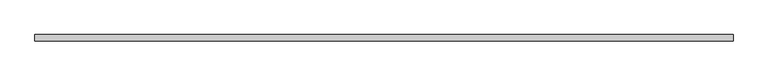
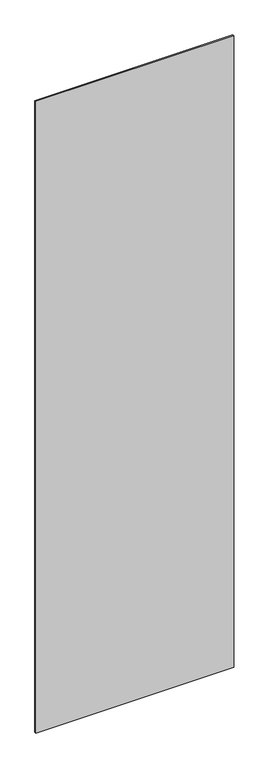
"""IFC4 building model written with IfcOpenShell, lengths in millimetres: plate geometry, システム パネル : 標準."""

from ifc_helpers import new_model, si_unit, origin, origin_with_axes, place, context, project, spatial, polyline, outline, extrude, source, transform, mapped, element, save


def plate_ba48ed10(model_context):
    return source(origin(), model_context, "Body", "SweptSolid", [
        extrude(outline(polyline([(572.5, -5.0), (-572.5, -5.0), (-572.5, 5.0), (572.5, 5.0), (572.5, -5.0)])), origin_with_axes(), (0.0, 0.0, 1.0), 3860.0),
    ])


if __name__ == "__main__":
    model = new_model("IFC4")
    model_context = context("Model", 3, world=origin())
    ifc_project = project(units=[si_unit("LENGTHUNIT", "METRE", prefix="MILLI")], contexts=[model_context])
    site = spatial("IfcSite", under=ifc_project)
    building = spatial("IfcBuilding", under=site)
    placement = place(None, origin())
    plate_shape = plate_ba48ed10(model_context)
    element("IfcPlate", 1, ObjectType="システム パネル : 標準", at=placement, inside=building, context=model_context, shape_type="MappedRepresentation", body=[
        mapped(plate_shape, transform((0.0, 0.0, 0.0), x_axis=(1.0, 0.0, 0.0), y_axis=(0.0, 1.0, 0.0), z_axis=(0.0, 0.0, 1.0))),
    ])
    save(model, "model.ifc")
